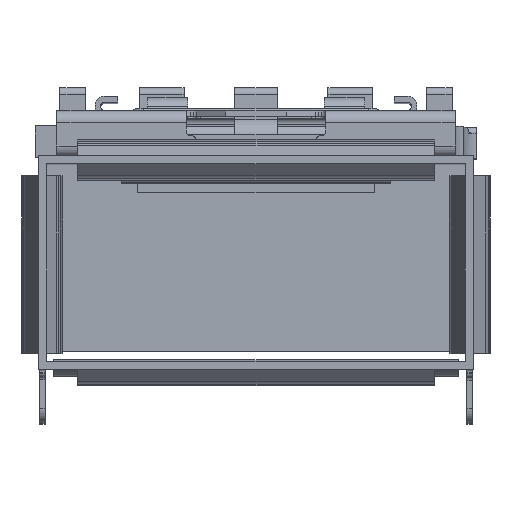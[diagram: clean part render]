
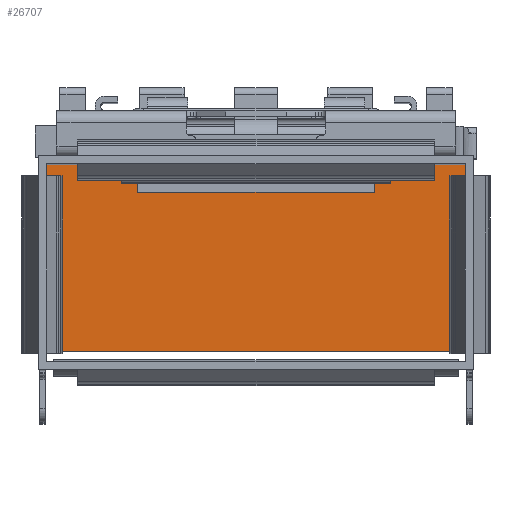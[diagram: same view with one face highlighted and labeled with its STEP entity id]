
A CAD part, top view. The second image highlights one B-rep face of the part: STEP entity #26707.
In plain terms, the highlighted planar face has unit normal (0, 0, 1).
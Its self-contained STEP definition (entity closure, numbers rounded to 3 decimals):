
#341 = VECTOR ( 'NONE', #24764, 1000. ) ;
#1839 = VECTOR ( 'NONE', #21000, 1000. ) ;
#5934 = VECTOR ( 'NONE', #11793, 1000. ) ;
#8760 = FACE_OUTER_BOUND ( 'NONE', #16620, .T. ) ;
#9016 = EDGE_CURVE ( 'NONE', #21268, #21522, #16174, .T. ) ;
#9611 = VECTOR ( 'NONE', #34567, 1000. ) ;
#11056 = EDGE_CURVE ( 'NONE', #38088, #14631, #18462, .T. ) ;
#11192 = CARTESIAN_POINT ( 'NONE',  ( -5., 0.85, -60.665 ) ) ;
#11793 = DIRECTION ( 'NONE',  ( -1., 0., 0. ) ) ;
#11925 = CARTESIAN_POINT ( 'NONE',  ( 9.375, 9.15, -60.665 ) ) ;
#12587 = EDGE_CURVE ( 'NONE', #14631, #21522, #19828, .T. ) ;
#14582 = EDGE_CURVE ( 'NONE', #21268, #38088, #16760, .T. ) ;
#14631 = VERTEX_POINT ( 'NONE', #31236 ) ;
#15245 = AXIS2_PLACEMENT_3D ( 'NONE', #11192, #32607, #35749 ) ;
#15785 = CARTESIAN_POINT ( 'NONE',  ( 9.375, 9.15, -60.665 ) ) ;
#16174 = LINE ( 'NONE', #24904, #341 ) ;
#16620 = EDGE_LOOP ( 'NONE', ( #29786, #16746, #26621, #16732 ) ) ;
#16732 = ORIENTED_EDGE ( 'NONE', *, *, #11056, .T. ) ;
#16746 = ORIENTED_EDGE ( 'NONE', *, *, #9016, .F. ) ;
#16760 = LINE ( 'NONE', #39465, #1839 ) ;
#18462 = LINE ( 'NONE', #11925, #5934 ) ;
#19828 = LINE ( 'NONE', #28037, #9611 ) ;
#21000 = DIRECTION ( 'NONE',  ( 0., 1., 0. ) ) ;
#21268 = VERTEX_POINT ( 'NONE', #29580 ) ;
#21522 = VERTEX_POINT ( 'NONE', #31182 ) ;
#24764 = DIRECTION ( 'NONE',  ( -1., 0., 0. ) ) ;
#24904 = CARTESIAN_POINT ( 'NONE',  ( -9.625, 0.85, -60.665 ) ) ;
#26566 = PLANE ( 'NONE',  #15245 ) ;
#26621 = ORIENTED_EDGE ( 'NONE', *, *, #14582, .T. ) ;
#26707 = ADVANCED_FACE ( 'NONE', ( #8760 ), #26566, .F. ) ;
#28037 = CARTESIAN_POINT ( 'NONE',  ( -9.375, 9.15, -60.665 ) ) ;
#29580 = CARTESIAN_POINT ( 'NONE',  ( 9.375, 0.85, -60.665 ) ) ;
#29786 = ORIENTED_EDGE ( 'NONE', *, *, #12587, .T. ) ;
#31182 = CARTESIAN_POINT ( 'NONE',  ( -9.375, 0.85, -60.665 ) ) ;
#31236 = CARTESIAN_POINT ( 'NONE',  ( -9.375, 9.15, -60.665 ) ) ;
#32607 = DIRECTION ( 'NONE',  ( 0., 0., -1. ) ) ;
#34567 = DIRECTION ( 'NONE',  ( 0., -1., 0. ) ) ;
#35749 = DIRECTION ( 'NONE',  ( -1., 0., 0. ) ) ;
#38088 = VERTEX_POINT ( 'NONE', #15785 ) ;
#39465 = CARTESIAN_POINT ( 'NONE',  ( 9.375, 0.25, -60.665 ) ) ;
